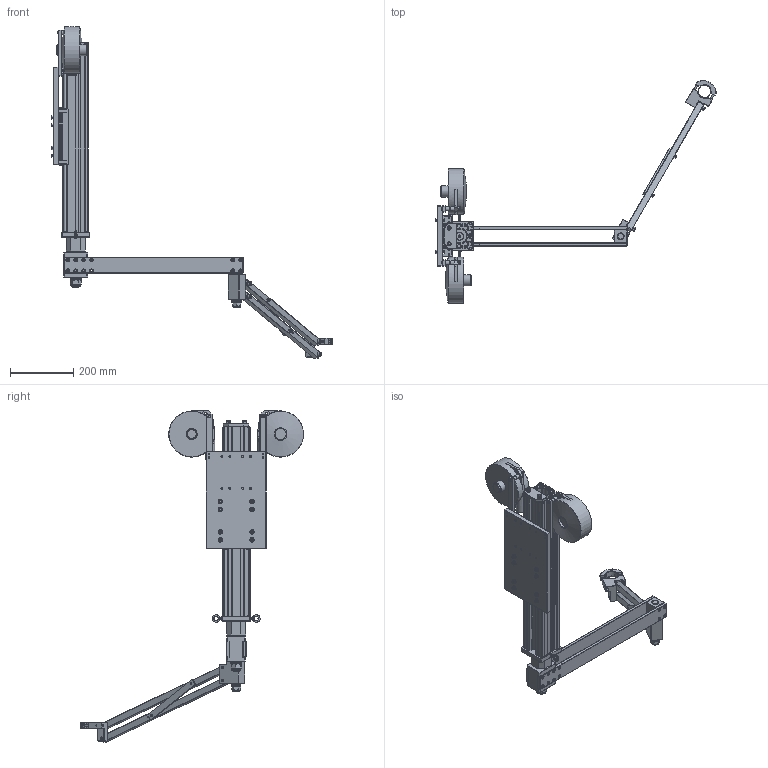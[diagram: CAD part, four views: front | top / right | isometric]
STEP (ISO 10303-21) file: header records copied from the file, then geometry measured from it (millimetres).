
FILE_DESCRIPTION( ( 'Unknown' ), '1' );
FILE_NAME( 'E:/0 Travail/0 Travaux en cours/Doga/Assemblage 2014/BIBLIOTEQUE 3D/Assemblage 2013/13-52-3912 BRAS SLIDER BA 100 R/4-1201118-bras Slider BA 100 R_900/4-1201118-bras Slider BA 100 R_900.stp', 'Unknown', ( 'Unknown' ), ( 'Unknown' ), 'PSStep 14.0', 'Unknown', ' ' );
FILE_SCHEMA( ( 'AUTOMOTIVE_DESIGN { 1 0 10303 214 1 1 1 1 }' ) );
Length unit declared in the file: millimetre
Products named in the file (99): chariot ISEL WS 3_ L 176; Wellenschlitten WS 3_-_WS 3 - L 150; Asm Pince BA100R; CHC M6x45 fileté sous tete; CHC M6x45 fileté sous tete-oa27; Placement'; collier; Pince BA100R; Sous ensemble Avant bras BA100R-22.5 - Rallongé 900; Pivot pantographe BA100R; Carré supérieur BA100R - Rallongé 900; Carré inférieur BA100R - Rallongé 900; Règle immobilisatrice; CHC M8x40; CHC M8x40-oa45; CHC M8x40-oa46; CHC M8x40-oa47; CHC M6x25; CHC M6x25-oa48; Roulement à aiguilles HK2016; Roulement à aiguilles HK2016-oa49; 16 Z; Butée à aiguilles AXK1730; H M16 Nyl; 20 Z; Roulement à aiguilles LR20x25x20-5; Roulement à aiguilles LR20x25x20-5-oa50; Entretoise pivot; Asm chariot SLIDER BA100 ; Entretoise; Entretoise-oa0; Entretoise-oa1; Entretoise-oa2; Platine équilibreur Slider 80; Platine équilibreur Slider 80-oa3; Platine chariot Slider 80; Equilibreur 6 - 8Kg; Equilibreur 6 - 8Kg-oa4; 06 M; 06 M-oa5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
Assembly tree (99 placements, depth 4):
  Assem1
    Asm chariot SLIDER BA100 
      Entretoise
      Entretoise-oa0
      Entretoise-oa1
      Entretoise-oa2
      Platine équilibreur Slider 80
      Platine équilibreur Slider 80-oa3
      Platine chariot Slider 80
      Equilibreur 6 - 8Kg
      Equilibreur 6 - 8Kg-oa4
      06 M
      06 M-oa5
      06 M-oa6
      06 M-oa7
      06 M-oa8
      06 M-oa9
      06 M-oa10
      06 M-oa11
      CHC M6x20
      CHC M6x20-oa12
      CHC M6x20-oa13
      CHC M6x20-oa14
      CHC M6x20-oa15
      CHC M6x20-oa16
      CHC M6x20-oa17
      CHC M6x20-oa18
      CHC M6x20-oa19
      CHC M6x20-oa20
      CHC M6x20-oa21
      CHC M6x20-oa22
      CHC M8x50
      CHC M8x50-oa23
      chariot ISEL WS 3_ L 176
        Wellenschlitten WS 3_-_WS 3 - L 150
    rail MLF4_598_SLIDER BA100 
      Butée à aiguilles AXK2035
      Rondelle 25 x 40 x 4
      Rondelle LS2035
      Rondelle LS2035-oa24
      rail ISEL_MLF4_L=598
      axe rotation sur slider 
      Embout rail_SLIDER BA100 
      Platine butée
      H M20 Nyl
      Piton M6
      Piton M6-oa25
      CHC M8x25
      CHC M8x25-oa26
    Asm Pince BA100R
      CHC M6x45 fileté sous tete
      CHC M6x45 fileté sous tete-oa27
      Placement'
      collier
      Pince BA100R
    13-52-3912 Arrière bras SLIDER BA 100 R_900
      foureau pour axe SLIDER BA100
      Roulement à aiguilles NK25-20
      Roulement à aiguilles NK25-20-oa28
      Plaque support BA100R - Rallongé 900
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Bounding box: 886.88 x 703.94 x 1046.37 mm (x, y, z)
Volume: 6463336.9 mm3; surface area: 1640879.2 mm2
Topology: 93 solids, 96 shells, 2712 faces, 6626 edges, 4248 vertices
Faces by surface type: plane 1742, cylinder 748, cone 146, torus 56, bspline 14, sphere 6
Full cylindrical faces by diameter (mm): 1 x4, 4.917 x4, 5 x14, 5.5 x4, 5.8 x32, 6 x92, 6.5 x2, 6.647 x3, 6.8 x4, 7 x1, 7.8 x8, 8 x12, 8.376 x2, 8.5 x11, 9 x4, 10 x28, 10.5 x12, 13 x13, 13.835 x1, 14 x8, 16 x4, 17 x1, 17.294 x1, 19.99 x1, 20 x11, 21 x1, 23.713 x1, 24 x1, 25 x7, 26 x2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
Entity records: 101869 total; most frequent: CARTESIAN_POINT 18040, DIRECTION 12478, ORIENTED_EDGE 11728, EDGE_CURVE 5864, AXIS2_PLACEMENT_3D 4387, VERTEX_POINT 4010, LINE 3704, VECTOR 3704
